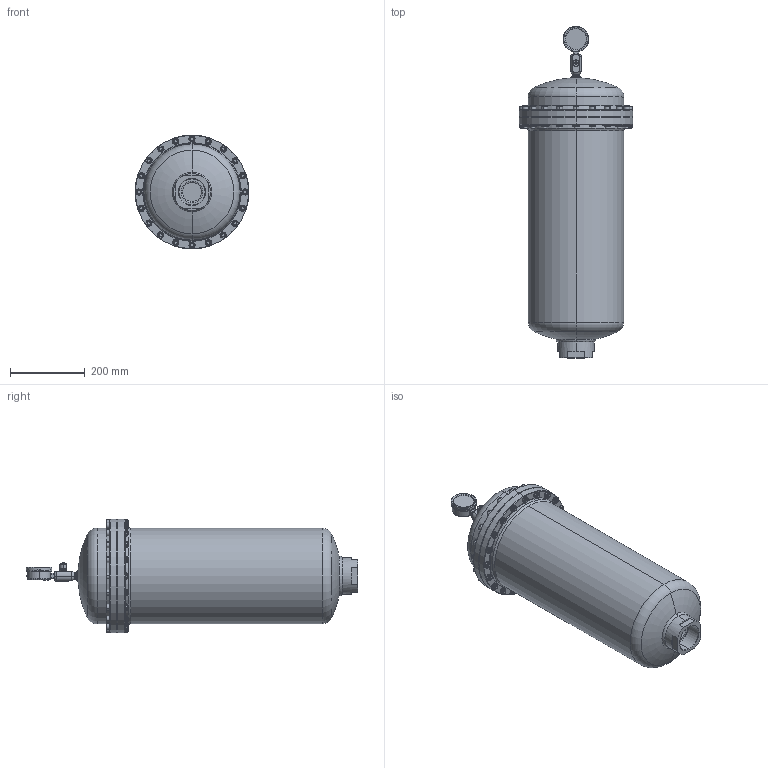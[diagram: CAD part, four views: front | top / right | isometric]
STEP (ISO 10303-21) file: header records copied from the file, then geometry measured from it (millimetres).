
FILE_DESCRIPTION (( 'STEP AP214' ), '1' );
FILE_NAME ('U350G02X1-AI (DGA).STEP', '2025-05-14T14:24:55', ( '' ), ( '' ), 'SwSTEP 2.0', 'SolidWorks 2024', '' );
FILE_SCHEMA (( 'AUTOMOTIVE_DESIGN' ));
Length unit declared in the file: millimetre
Products named in the file (1): U350G02X1-AI (DGA)
Bounding box: 305 x 888.84 x 305 mm (x, y, z)
Surface area: 799444 mm2 (no closed solid volume)
Topology: 0 solids, 32 shells, 1449 faces, 3334 edges, 1989 vertices
Faces by surface type: plane 556, cone 379, cylinder 334, torus 134, bspline 36, sphere 10
Entity records: 58372 total; most frequent: CARTESIAN_POINT 10105, DIRECTION 6960, ORIENTED_EDGE 6435, EDGE_CURVE 3292, AXIS2_PLACEMENT_3D 2874, VERTEX_POINT 1989, EDGE_LOOP 1626, CIRCLE 1460
